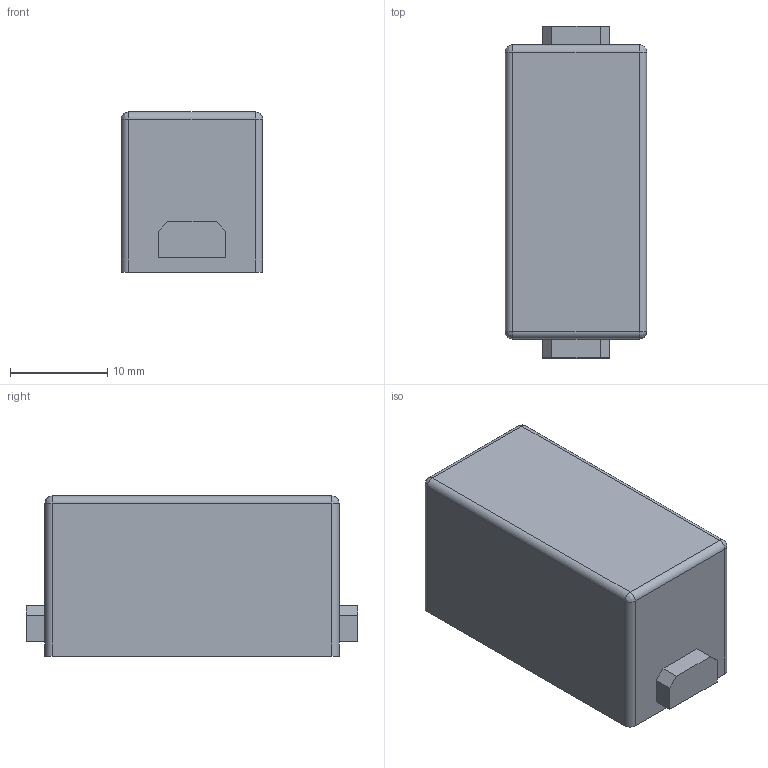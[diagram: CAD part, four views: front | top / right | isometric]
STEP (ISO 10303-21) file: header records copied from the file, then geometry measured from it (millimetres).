
FILE_DESCRIPTION (( 'STEP AP203' ), '1' );
FILE_NAME ('HM-DM.STEP', '2021-03-16T01:19:07', ( '' ), ( '' ), 'SwSTEP 2.0', 'SolidWorks 2016', '' );
FILE_SCHEMA (( 'CONFIG_CONTROL_DESIGN' ));
Length unit declared in the file: millimetre
Products named in the file (1): HM-DM
Bounding box: 14.55 x 34.2 x 16.5 mm (x, y, z)
Volume: 2821.9 mm3; surface area: 3515 mm2
Topology: 1 solids, 1 shells, 49 faces, 116 edges, 64 vertices
Faces by surface type: plane 25, cylinder 16, bspline 4, sphere 4
Entity records: 1445 total; most frequent: CARTESIAN_POINT 287, DIRECTION 230, ORIENTED_EDGE 216, EDGE_CURVE 108, AXIS2_PLACEMENT_3D 77, LINE 76, VECTOR 76, VERTEX_POINT 64
